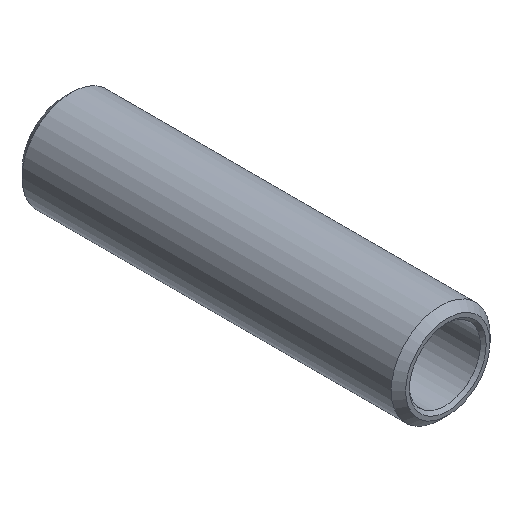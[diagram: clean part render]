
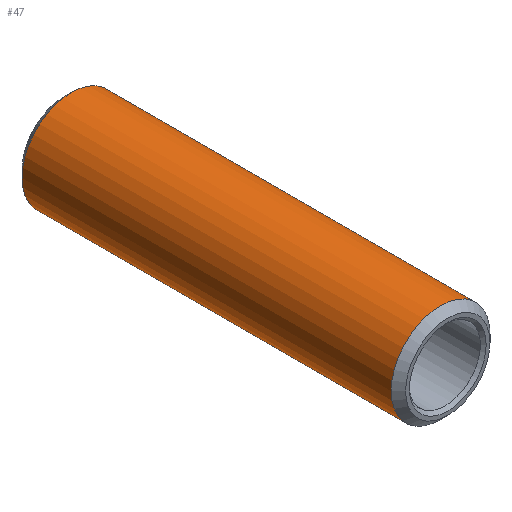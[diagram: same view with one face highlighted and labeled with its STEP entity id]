
A CAD part, isometric view. The second image highlights one B-rep face of the part: STEP entity #47.
In plain terms, the highlighted cylindrical face has radius 10.3 mm (diameter 20.6 mm), a full revolution.
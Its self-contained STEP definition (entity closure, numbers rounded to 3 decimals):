
#47=ADVANCED_FACE('',(#79,#81),#83,.T.);
#79=FACE_OUTER_BOUND('',#80,.T.);
#80=EDGE_LOOP('',(#130));
#81=FACE_OUTER_BOUND('',#82,.T.);
#82=EDGE_LOOP('',(#131));
#83=CYLINDRICAL_SURFACE('',#84,10.3);
#84=AXIS2_PLACEMENT_3D('',#85,#86,#87);
#85=CARTESIAN_POINT('',(0.,0.,0.));
#86=DIRECTION('',(0.,1.,0.));
#87=DIRECTION('',(-1.,0.,0.));
#130=ORIENTED_EDGE('',*,*,#144,.F.);
#131=ORIENTED_EDGE('',*,*,#145,.T.);
#144=EDGE_CURVE('',#156,#156,#157,.T.);
#145=EDGE_CURVE('',#158,#158,#159,.T.);
#156=VERTEX_POINT('',#184);
#157=CIRCLE('',#185,10.3);
#158=VERTEX_POINT('',#189);
#159=CIRCLE('',#190,10.3);
#184=CARTESIAN_POINT('',(-10.3,78.5,0.));
#185=AXIS2_PLACEMENT_3D('',#186,#187,#188);
#186=CARTESIAN_POINT('',(0.,78.5,0.));
#187=DIRECTION('',(0.,1.,0.));
#188=DIRECTION('',(-1.,0.,0.));
#189=CARTESIAN_POINT('',(-10.3,1.5,0.));
#190=AXIS2_PLACEMENT_3D('',#191,#192,#193);
#191=CARTESIAN_POINT('',(0.,1.5,0.));
#192=DIRECTION('',(0.,1.,0.));
#193=DIRECTION('',(-1.,0.,0.));
